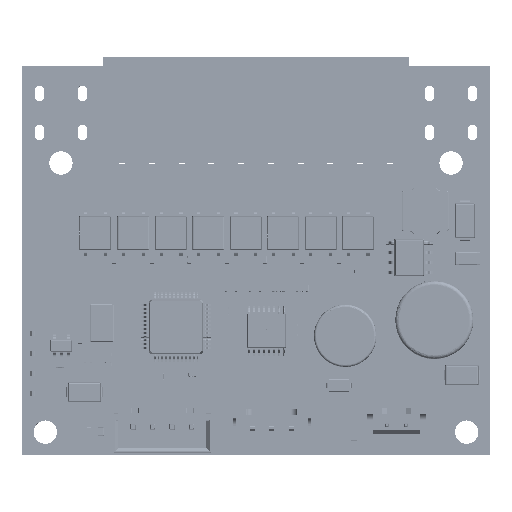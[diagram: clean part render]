
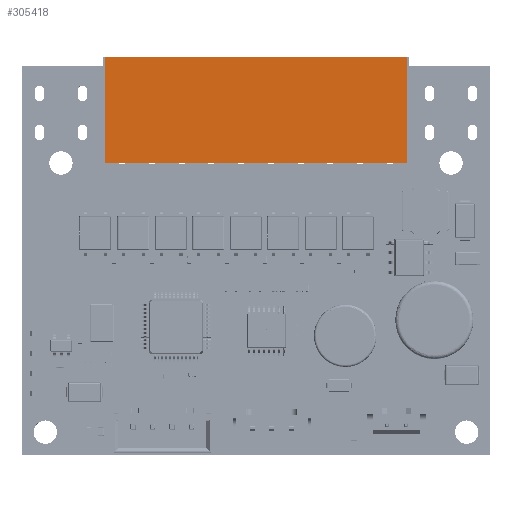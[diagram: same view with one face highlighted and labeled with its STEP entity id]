
A CAD part, top view. The second image highlights one B-rep face of the part: STEP entity #305418.
In plain terms, the highlighted planar face has unit normal (0, 0, 1).
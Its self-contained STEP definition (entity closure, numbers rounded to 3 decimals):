
#300390 = VERTEX_POINT('',#300391);
#300391 = CARTESIAN_POINT('',(-19.395,2.4,14.8));
#300397 = EDGE_CURVE('',#300398,#300390,#300400,.T.);
#300398 = VERTEX_POINT('',#300399);
#300399 = CARTESIAN_POINT('',(19.395,2.4,14.8));
#300400 = LINE('',#300401,#300402);
#300401 = CARTESIAN_POINT('',(-19.395,2.4,14.8));
#300402 = VECTOR('',#300403,1.);
#300403 = DIRECTION('',(-1.,0.,0.));
#303451 = VERTEX_POINT('',#303452);
#303452 = CARTESIAN_POINT('',(-19.395,-11.2,
    14.8));
#303458 = EDGE_CURVE('',#303451,#300390,#303459,.T.);
#303459 = LINE('',#303460,#303461);
#303460 = CARTESIAN_POINT('',(-19.395,-11.2,
    14.8));
#303461 = VECTOR('',#303462,1.);
#303462 = DIRECTION('',(0.,1.,0.));
#303585 = EDGE_CURVE('',#303586,#300398,#303588,.T.);
#303586 = VERTEX_POINT('',#303587);
#303587 = CARTESIAN_POINT('',(19.395,-11.2,
    14.8));
#303588 = LINE('',#303589,#303590);
#303589 = CARTESIAN_POINT('',(19.395,-11.2,
    14.8));
#303590 = VECTOR('',#303591,1.);
#303591 = DIRECTION('',(0.,1.,0.));
#305418 = ADVANCED_FACE('',(#305419),#305430,.F.);
#305419 = FACE_BOUND('',#305420,.T.);
#305420 = EDGE_LOOP('',(#305421,#305422,#305423,#305429));
#305421 = ORIENTED_EDGE('',*,*,#300397,.T.);
#305422 = ORIENTED_EDGE('',*,*,#303458,.F.);
#305423 = ORIENTED_EDGE('',*,*,#305424,.F.);
#305424 = EDGE_CURVE('',#303586,#303451,#305425,.T.);
#305425 = LINE('',#305426,#305427);
#305426 = CARTESIAN_POINT('',(-19.395,-11.2,
    14.8));
#305427 = VECTOR('',#305428,1.);
#305428 = DIRECTION('',(-1.,0.,0.));
#305429 = ORIENTED_EDGE('',*,*,#303585,.T.);
#305430 = PLANE('',#305431);
#305431 = AXIS2_PLACEMENT_3D('',#305432,#305433,#305434);
#305432 = CARTESIAN_POINT('',(-19.395,-11.2,
    14.8));
#305433 = DIRECTION('',(0.,0.,-1.));
#305434 = DIRECTION('',(0.,1.,0.));
